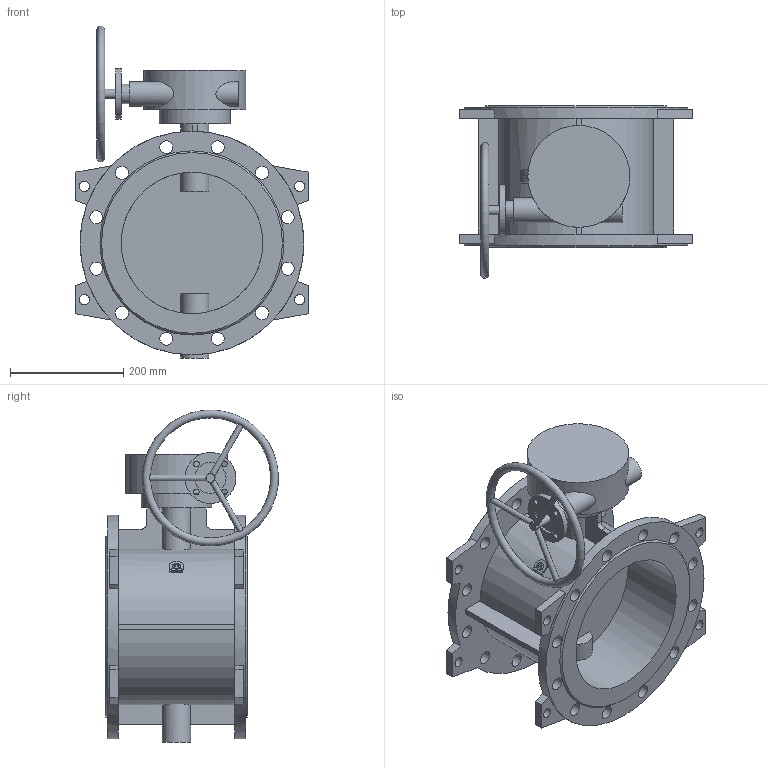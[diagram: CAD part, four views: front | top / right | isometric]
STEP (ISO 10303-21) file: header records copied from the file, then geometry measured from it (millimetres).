
FILE_DESCRIPTION(('STEP AP203'), '1');
FILE_NAME('Çàòâîð 023F.Z DN250 PN10_ìàõ', '', ('UNSPECIFIED'), ('UNSPECIFIED'), 'ASCON STEP Converter 1.6', 'ASCON Math Kernel', '');
FILE_SCHEMA(('CONFIG_CONTROL_DESIGN'));
Length unit declared in the file: millimetre
Bounding box: 410 x 304.82 x 585.92 mm (x, y, z)
Volume: 9510179.8 mm3; surface area: 1070014.2 mm2
Topology: 1 solids, 1 shells, 170 faces, 431 edges, 287 vertices
Faces by surface type: plane 90, cylinder 77, cone 2, torus 1
Full cylindrical faces by diameter (mm): 8.3 x4, 10 x7, 12 x4, 16 x1, 18 x8, 23 x24, 34 x1, 44 x1, 50 x1, 55 x1, 90 x1, 125 x1, 180 x1, 250 x2, 395 x2
Entity records: 8796 total; most frequent: CARTESIAN_POINT 3285, DIRECTION 843, ORIENTED_EDGE 734, EDGE_CURVE 367, EDGE_LOOP 333, AXIS2_PLACEMENT_3D 331, VERTEX_POINT 286, FACE_BOUND 216
